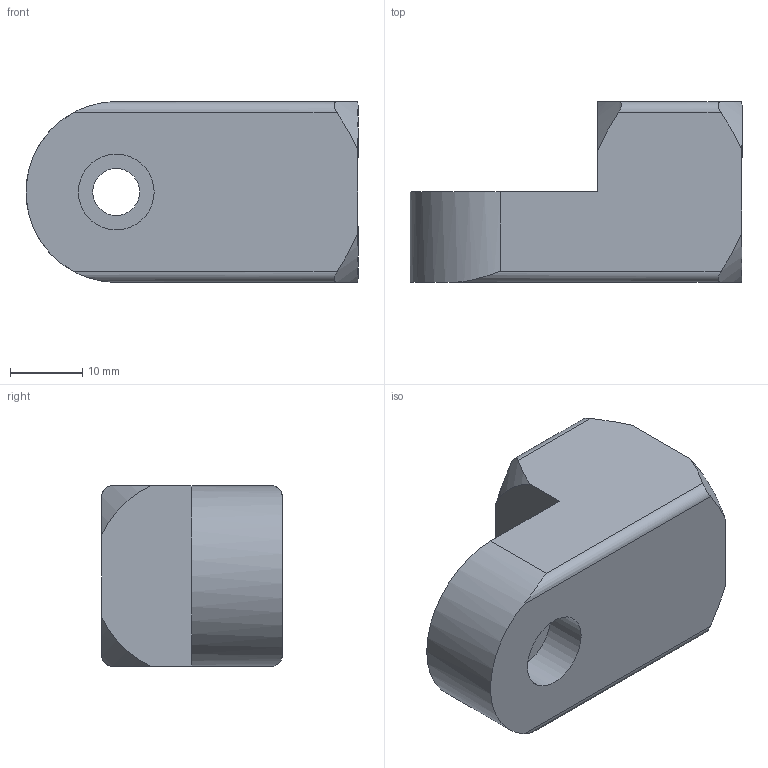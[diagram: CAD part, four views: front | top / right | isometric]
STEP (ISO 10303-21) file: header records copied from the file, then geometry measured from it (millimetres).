
FILE_DESCRIPTION( ( 'STEP AP203' ), '1' );
FILE_NAME( 'C:/Temp/Ganter_Step_05_03_2020/data/3_7/gn_484/Attachment clamp mounting GN 484-M8-25-ELS.stp', '2020-03-12T14:47:01', ( 'License CC BY-ND 4.0' ), ( 'CADENAS' ), ' ', 'PARTsolutions', ' ' );
FILE_SCHEMA( ( 'CONFIG_CONTROL_DESIGN' ) );
Length unit declared in the file: millimetre
Products named in the file (1): _Attachment clamp mounting GN 484-M8-25-ELS
Bounding box: 46 x 25 x 25 mm (x, y, z)
Volume: 17768.9 mm3; surface area: 5844.9 mm2
Topology: 1 solids, 1 shells, 38 faces, 90 edges, 57 vertices
Faces by surface type: cone 15, cylinder 13, plane 10
Full cylindrical faces by diameter (mm): 3.242 x4, 6.5 x1, 6.647 x1, 10 x1, 10.5 x1
Entity records: 1148 total; most frequent: CARTESIAN_POINT 319, DIRECTION 156, ORIENTED_EDGE 138, EDGE_CURVE 69, AXIS2_PLACEMENT_3D 68, EDGE_LOOP 60, VERTEX_POINT 57, FACE_OUTER_BOUND 46
